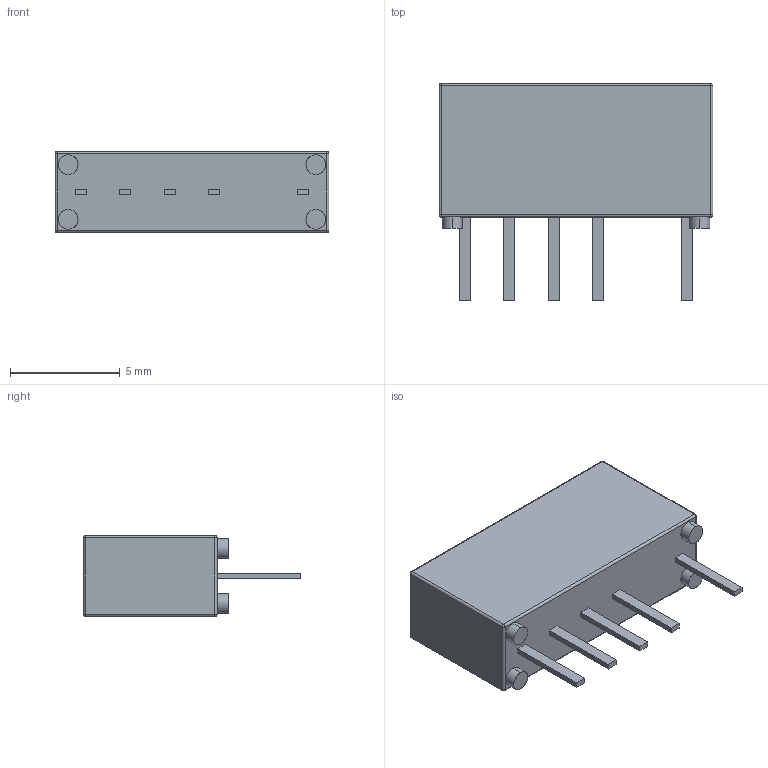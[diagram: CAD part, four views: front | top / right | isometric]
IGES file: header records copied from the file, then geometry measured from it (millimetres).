
Start section: SolidWorks IGES file using analytic representation for surfaces
Global section: file name: C:\Documents and Settings\alex.leming\Desktop\Replacement Models\113-1-C.IGS; native system: SolidWorks 2009; preprocessor: SolidWorks 2009; author: alex.leming; date: 101126.114948; units: millimetre
Bounding box: 12.5 x 9.9 x 3.7 mm (x, y, z)
Surface area: 320.8 mm2 (no closed solid volume)
Topology: 0 solids, 0 shells, 282 faces, 2200 edges, 2192 vertices
Faces by surface type: bspline 252, revolution 30
